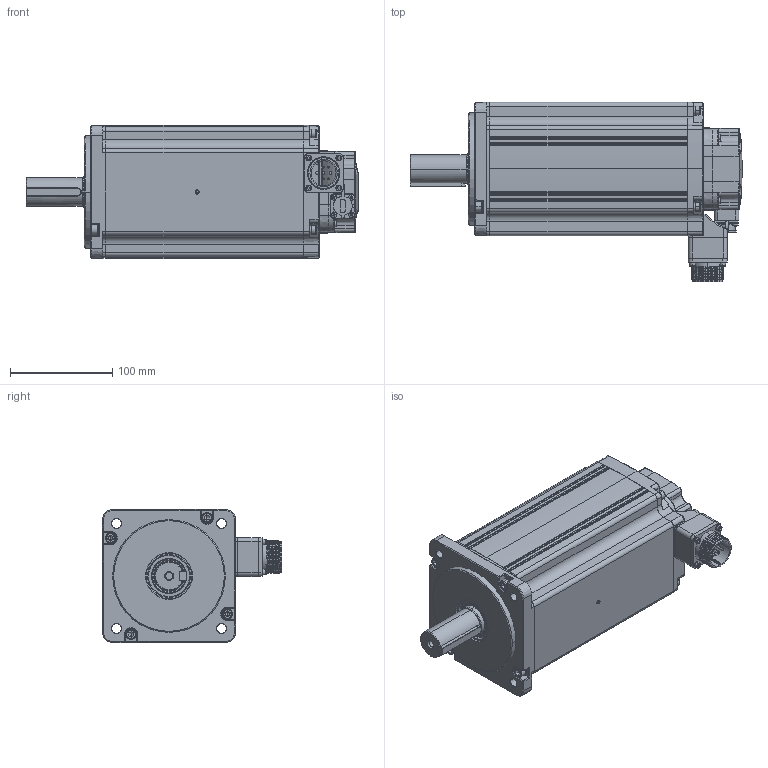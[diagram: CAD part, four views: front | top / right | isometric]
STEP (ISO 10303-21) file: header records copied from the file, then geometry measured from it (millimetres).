
FILE_DESCRIPTION (( 'STEP AP214' ), '1' );
FILE_NAME ('UMM-0050EA-B5.STEP', '2024-08-20T09:28:11', ( '' ), ( '' ), 'SwSTEP 2.0', 'SolidWorks 2022', '' );
FILE_SCHEMA (( 'AUTOMOTIVE_DESIGN' ));
Length unit declared in the file: millimetre
Products named in the file (1): UMM-0050EA-B5
Bounding box: 324 x 174.95 x 130 mm (x, y, z)
Surface area: 195602.5 mm2 (no closed solid volume)
Topology: 0 solids, 96 shells, 959 faces, 3032 edges, 2112 vertices
Faces by surface type: plane 297, cylinder 288, bspline 213, cone 132, torus 28, sphere 1
Entity records: 48418 total; most frequent: CARTESIAN_POINT 23951, ORIENTED_EDGE 4991, DIRECTION 4611, EDGE_CURVE 2989, VERTEX_POINT 2112, AXIS2_PLACEMENT_3D 1705, VECTOR 1201, LINE 1201
